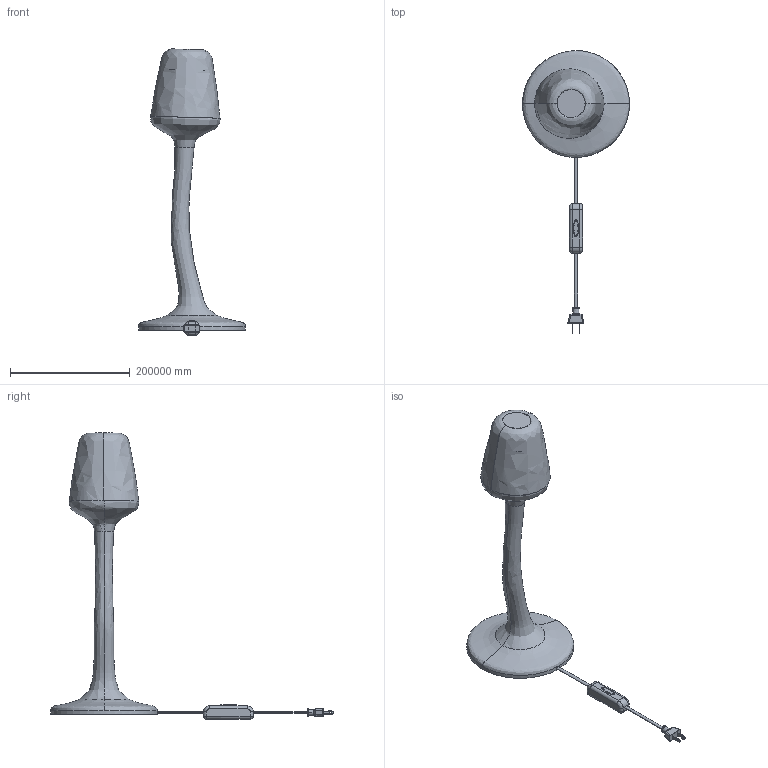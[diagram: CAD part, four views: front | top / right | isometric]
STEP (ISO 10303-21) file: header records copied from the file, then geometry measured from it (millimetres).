
FILE_DESCRIPTION(/* description */ (''),/* implementation_level */ '2;1');
FILE_NAME(/* name */ 'Mushroom Table UL',/* time_stamp */ '2019-02-05T08:39:34+01:00',/* author */ (''),/* organization */ (''),/* preprocessor_version */ 'ST-DEVELOPER v15',/* originating_system */ '',/* authorisation */ '');
FILE_SCHEMA (('AUTOMOTIVE_DESIGN'));
Length unit declared in the file: metre
Products named in the file (2): Document; Block 02
Assembly tree (1 placements, depth 2):
  Document
    Block 02
Bounding box: 178408.16 x 472318.43 x 477993.7 mm (x, y, z)
Volume: 668341888713853.4 mm3; surface area: 275007112175.7 mm2
Topology: 5 solids, 7 shells, 130 faces, 298 edges, 179 vertices
Faces by surface type: bspline 88, plane 42
Entity records: 12225 total; most frequent: CARTESIAN_POINT 10408, ORIENTED_EDGE 584, EDGE_CURVE 294, VERTEX_POINT 179, B_SPLINE_CURVE_WITH_KNOTS 142, EDGE_LOOP 139, ADVANCED_FACE 130, FACE_OUTER_BOUND 130
